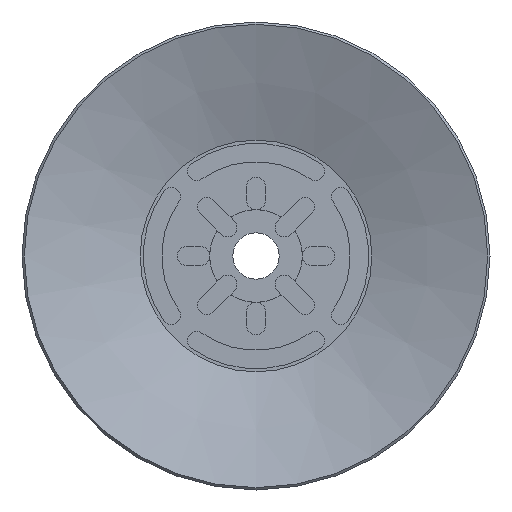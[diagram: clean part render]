
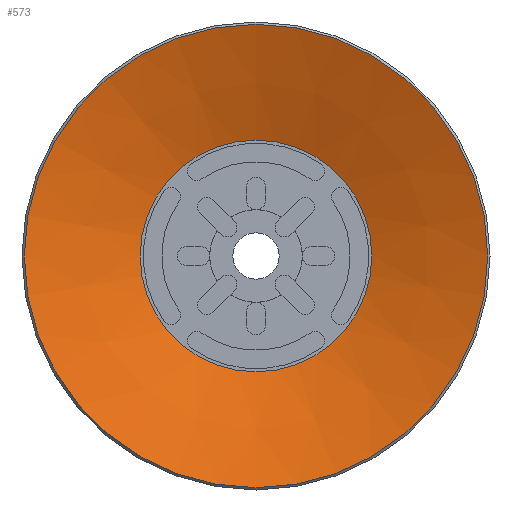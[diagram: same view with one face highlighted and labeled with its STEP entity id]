
A CAD part, front view. The second image highlights one B-rep face of the part: STEP entity #573.
In plain terms, the highlighted conical face has half-angle 70.201 degrees and reference radius 7.5 mm.
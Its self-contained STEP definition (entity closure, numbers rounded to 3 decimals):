
#573=ADVANCED_FACE('',(#910,#911),#912,.F.);
#910=FACE_BOUND('',#1324,.T.);
#911=FACE_OUTER_BOUND('',#1325,.T.);
#912=CONICAL_SURFACE('',#1326,7.5,1.225);
#1324=EDGE_LOOP('',(#2266));
#1325=EDGE_LOOP('',(#2267));
#1326=AXIS2_PLACEMENT_3D('',#2268,#2269,#2270);
#2266=ORIENTED_EDGE('',*,*,#3006,.F.);
#2267=ORIENTED_EDGE('',*,*,#3007,.T.);
#2268=CARTESIAN_POINT('',(0.0,0.0,2.7));
#2269=DIRECTION('',(0.0,0.,-1.0));
#2270=DIRECTION('',(0.0,1.0,0.));
#3006=EDGE_CURVE('',#3576,#3576,#3577,.T.);
#3007=EDGE_CURVE('',#3578,#3578,#3579,.T.);
#3576=VERTEX_POINT('',#4648);
#3577=CIRCLE('',#4649,7.5);
#3578=VERTEX_POINT('',#4650);
#3579=CIRCLE('',#4651,15.0);
#4648=CARTESIAN_POINT('',(0.0,7.5,2.7));
#4649=AXIS2_PLACEMENT_3D('',#5321,#5322,#5323);
#4650=CARTESIAN_POINT('',(0.0,15.0,0.));
#4651=AXIS2_PLACEMENT_3D('',#5324,#5325,#5326);
#5321=CARTESIAN_POINT('',(0.0,0.0,2.7));
#5322=DIRECTION('',(0.0,0.,-1.0));
#5323=DIRECTION('',(0.0,1.0,0.));
#5324=CARTESIAN_POINT('',(0.0,0.0,0.0));
#5325=DIRECTION('',(0.0,0.,-1.0));
#5326=DIRECTION('',(0.0,1.0,0.));
